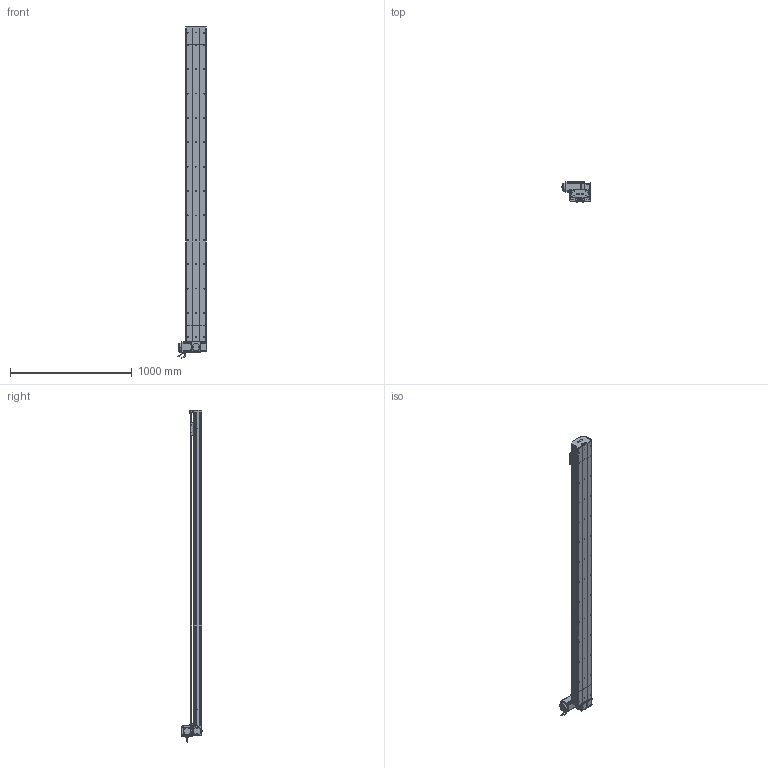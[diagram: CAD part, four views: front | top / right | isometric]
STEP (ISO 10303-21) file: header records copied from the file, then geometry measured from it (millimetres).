
FILE_DESCRIPTION (( 'STEP AP214' ), '1' );
FILE_NAME ('D17 TBN LT S2300.STEP', '2010-06-30T11:39:02', ( 'Christophe Gaillard' ), ( 'SGA' ), 'SwSTEP 2.0', 'SolidWorks 2010', '' );
FILE_SCHEMA (( 'AUTOMOTIVE_DESIGN' ));
Length unit declared in the file: millimetre
Products named in the file (40): Arbre+rail head D17B; cache D17_Default; vis M5 L5_Default; poulie head_Default; guide D17; plaque de  bout tail D17B_Default; poulie tail_Default; couvercle D17B_Default; vis M5 L8 90°_Default; D17 TBN LT S2300; vis M5 L12_Default; course 2300 D17B_Default; Conecteur2_Default; Conecteur_Default; vis M5 L70_Default; Plaque racord D17_Default; vis M5 L16_Default; Vis M5 L16-2_Default; tete d''axe poulie D17B; Rail D17B; Tail D17B+100_Default; vis M5 L25_Default; chariot D17 TBN; Chariot D17 TBN; corp D17B 2300_Default; couvercle D17B course L2300_Default; Head LT D17B_Default; corpl head D17 _Default; couvercle D17B head_Default; cache arbre D17_Default; couroie head D17_Default; Renvoi LT_Default; Moteur motionking 90BLDC125A-640; Couroie+ rail D17 Course 2300 ; Couroie tail D17B_Default; corp tail D17B+100_Default; plaque de  bout head D17B LT_Default; corps 90BLDC125A-640; avant 90BLDC125A-640; codeur 90BLDC125-640
Assembly tree (66 placements, depth 4):
  D17 TBN LT S2300
    chariot D17 TBN
      guide D17  x2
      Chariot D17 TBN
    Head LT D17B_Default
      vis M5 L70_Default  x4
      vis M5 L16_Default  x2
      vis M5 L5_Default  x4
      Arbre+rail head D17B
      vis M5 L12_Default  x8
      Vis M5 L16-2_Default  x4
      Plaque racord D17_Default
      couvercle D17B head_Default
      cache arbre D17_Default
      couroie head D17_Default
      cache D17_Default  x2
      Moteur motionking 90BLDC125A-640
        corps 90BLDC125A-640
        codeur 90BLDC125-640
        Conecteur_Default
        Conecteur2_Default
        avant 90BLDC125A-640
      vis M5 L25_Default  x2
      corpl head D17 _Default
      Renvoi LT_Default
      poulie head_Default
      plaque de  bout head D17B LT_Default
    Tail D17B+100_Default
      vis M5 L25_Default  x2
      vis M5 L12_Default  x4
      corp tail D17B+100_Default
      Couroie tail D17B_Default
      poulie tail_Default
      vis M5 L8 90°_Default  x2
      couvercle D17B_Default
      Rail D17B
      tete d''axe poulie D17B
      plaque de  bout tail D17B_Default
    course 2300 D17B_Default
      corp D17B 2300_Default
      Couroie+ rail D17 Course 2300 
      couvercle D17B course L2300_Default
Bounding box: 245.2 x 166.15 x 2723.95 mm (x, y, z)
Volume: 15727754.1 mm3; surface area: 4558280.9 mm2
Topology: 89 solids, 89 shells, 2619 faces, 6711 edges, 4326 vertices
Faces by surface type: plane 1537, cylinder 785, bspline 136, cone 80, torus 77, sphere 4
Entity records: 85101 total; most frequent: CARTESIAN_POINT 25285, ORIENTED_EDGE 10594, DIRECTION 9998, EDGE_CURVE 5297, LINE 3492, VECTOR 3492, VERTEX_POINT 3470, AXIS2_PLACEMENT_3D 3253
